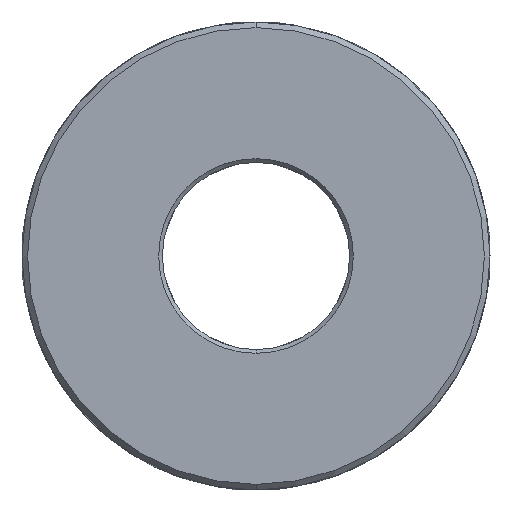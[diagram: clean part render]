
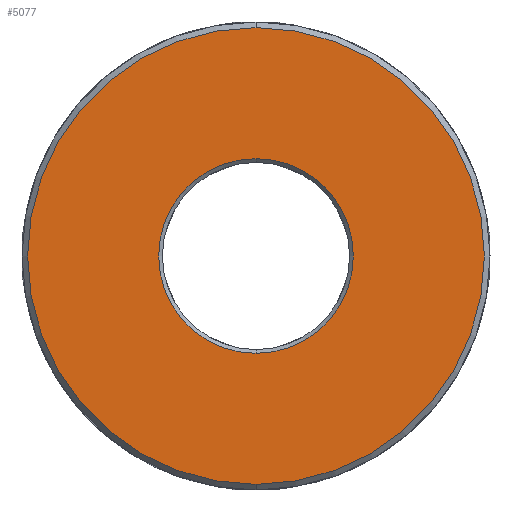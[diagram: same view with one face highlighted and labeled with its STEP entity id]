
A CAD part, front view. The second image highlights one B-rep face of the part: STEP entity #5077.
In plain terms, the highlighted planar face has unit normal (0, -1, 0).
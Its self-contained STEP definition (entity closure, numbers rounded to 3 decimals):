
#73 = AXIS2_PLACEMENT_3D ( 'NONE', #4951, #1568, #975 ) ;
#171 = DIRECTION ( 'NONE',  ( 0., 0., 1. ) ) ;
#180 = DIRECTION ( 'NONE',  ( 0., -1., 0. ) ) ;
#200 = DIRECTION ( 'NONE',  ( 0., 0., 1. ) ) ;
#203 = ORIENTED_EDGE ( 'NONE', *, *, #3725, .T. ) ;
#240 = FACE_BOUND ( 'NONE', #2618, .T. ) ;
#737 = CARTESIAN_POINT ( 'NONE',  ( 0., 0., 0. ) ) ;
#975 = DIRECTION ( 'NONE',  ( 0., 0., 1. ) ) ;
#1008 = AXIS2_PLACEMENT_3D ( 'NONE', #1020, #4415, #5079 ) ;
#1020 = CARTESIAN_POINT ( 'NONE',  ( 0., 0., 0. ) ) ;
#1341 = DIRECTION ( 'NONE',  ( 0., -1., 0. ) ) ;
#1473 = CARTESIAN_POINT ( 'NONE',  ( 0., 0., 24.4 ) ) ;
#1568 = DIRECTION ( 'NONE',  ( 0., 1., 0. ) ) ;
#1949 = CIRCLE ( 'NONE', #1008, 10.4 ) ;
#2058 = CIRCLE ( 'NONE', #2450, 24.4 ) ;
#2332 = VERTEX_POINT ( 'NONE', #7292 ) ;
#2450 = AXIS2_PLACEMENT_3D ( 'NONE', #5989, #180, #4240 ) ;
#2458 = CARTESIAN_POINT ( 'NONE',  ( 0., 0., 10.4 ) ) ;
#2468 = DIRECTION ( 'NONE',  ( 0., 1., 0. ) ) ;
#2618 = EDGE_LOOP ( 'NONE', ( #4738, #6674 ) ) ;
#2858 = EDGE_CURVE ( 'NONE', #5569, #2332, #5801, .T. ) ;
#3201 = VERTEX_POINT ( 'NONE', #2458 ) ;
#3668 = CARTESIAN_POINT ( 'NONE',  ( 0., 0., 0. ) ) ;
#3725 = EDGE_CURVE ( 'NONE', #2332, #5569, #2058, .T. ) ;
#4077 = AXIS2_PLACEMENT_3D ( 'NONE', #737, #2468, #171 ) ;
#4240 = DIRECTION ( 'NONE',  ( 0., 0., 1. ) ) ;
#4279 = EDGE_CURVE ( 'NONE', #3201, #5984, #7348, .T. ) ;
#4415 = DIRECTION ( 'NONE',  ( 0., 1., 0. ) ) ;
#4738 = ORIENTED_EDGE ( 'NONE', *, *, #5690, .T. ) ;
#4906 = EDGE_LOOP ( 'NONE', ( #5916, #203 ) ) ;
#4951 = CARTESIAN_POINT ( 'NONE',  ( -50., 0., 32.858 ) ) ;
#5077 = ADVANCED_FACE ( 'NONE', ( #240, #5326 ), #7311, .F. ) ;
#5079 = DIRECTION ( 'NONE',  ( 0., 0., 1. ) ) ;
#5326 = FACE_OUTER_BOUND ( 'NONE', #4906, .T. ) ;
#5432 = AXIS2_PLACEMENT_3D ( 'NONE', #3668, #1341, #200 ) ;
#5477 = CARTESIAN_POINT ( 'NONE',  ( 0., 0., -10.4 ) ) ;
#5569 = VERTEX_POINT ( 'NONE', #1473 ) ;
#5690 = EDGE_CURVE ( 'NONE', #5984, #3201, #1949, .T. ) ;
#5801 = CIRCLE ( 'NONE', #5432, 24.4 ) ;
#5916 = ORIENTED_EDGE ( 'NONE', *, *, #2858, .T. ) ;
#5984 = VERTEX_POINT ( 'NONE', #5477 ) ;
#5989 = CARTESIAN_POINT ( 'NONE',  ( 0., 0., 0. ) ) ;
#6674 = ORIENTED_EDGE ( 'NONE', *, *, #4279, .T. ) ;
#7292 = CARTESIAN_POINT ( 'NONE',  ( 0., 0., -24.4 ) ) ;
#7311 = PLANE ( 'NONE',  #73 ) ;
#7348 = CIRCLE ( 'NONE', #4077, 10.4 ) ;
